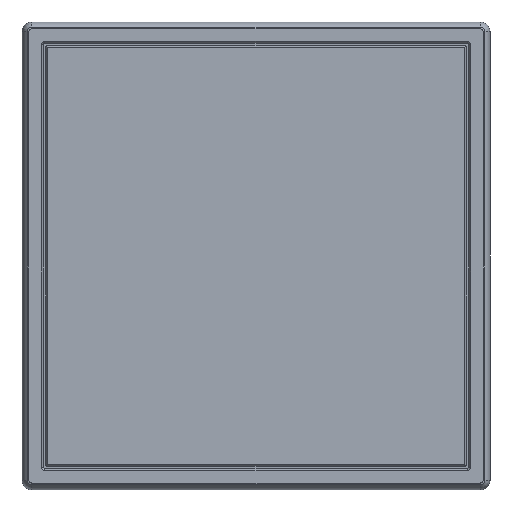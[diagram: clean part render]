
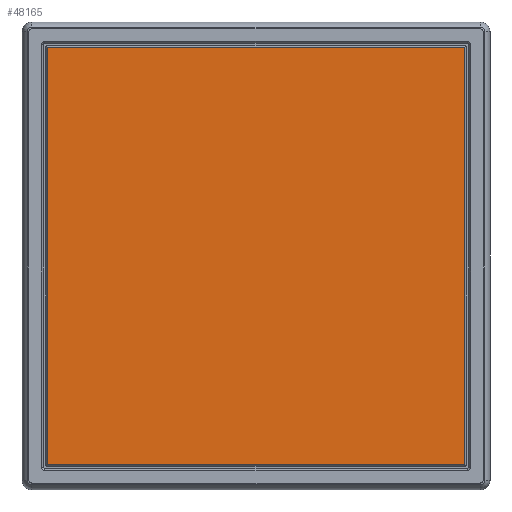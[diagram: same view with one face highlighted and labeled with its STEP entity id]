
A CAD part, top view. The second image highlights one B-rep face of the part: STEP entity #48165.
In plain terms, the highlighted planar face has unit normal (0, 0, 1).
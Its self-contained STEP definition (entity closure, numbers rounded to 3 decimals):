
#4491=PLANE('',#51110);
#5157=FACE_OUTER_BOUND('',#8059,.T.);
#8059=EDGE_LOOP('',(#30596,#30597,#30598,#30599,#30600,#30601,#30602,#30603));
#11045=ELLIPSE('',#51100,0.645,0.5);
#11046=ELLIPSE('',#51103,0.645,0.5);
#11047=ELLIPSE('',#51106,0.645,0.5);
#11048=ELLIPSE('',#51109,0.645,0.5);
#12952=LINE('',#69995,#15968);
#12954=LINE('',#70002,#15970);
#12958=LINE('',#70011,#15974);
#12961=LINE('',#70019,#15977);
#15968=VECTOR('',#56385,173.979);
#15970=VECTOR('',#56393,173.979);
#15974=VECTOR('',#56403,173.979);
#15977=VECTOR('',#56412,173.979);
#19001=VERTEX_POINT('',#69991);
#19002=VERTEX_POINT('',#69993);
#19003=VERTEX_POINT('',#69997);
#19004=VERTEX_POINT('',#70001);
#19005=VERTEX_POINT('',#70005);
#19006=VERTEX_POINT('',#70009);
#19007=VERTEX_POINT('',#70013);
#19008=VERTEX_POINT('',#70017);
#23306=EDGE_CURVE('',#19001,#19002,#12952,.T.);
#23308=EDGE_CURVE('',#19003,#19001,#11045,.T.);
#23309=EDGE_CURVE('',#19004,#19003,#12954,.T.);
#23312=EDGE_CURVE('',#19005,#19004,#11046,.T.);
#23314=EDGE_CURVE('',#19006,#19005,#12958,.T.);
#23316=EDGE_CURVE('',#19007,#19006,#11047,.T.);
#23318=EDGE_CURVE('',#19008,#19007,#12961,.T.);
#23319=EDGE_CURVE('',#19002,#19008,#11048,.T.);
#30596=ORIENTED_EDGE('',*,*,#23308,.T.);
#30597=ORIENTED_EDGE('',*,*,#23306,.T.);
#30598=ORIENTED_EDGE('',*,*,#23319,.T.);
#30599=ORIENTED_EDGE('',*,*,#23318,.T.);
#30600=ORIENTED_EDGE('',*,*,#23316,.T.);
#30601=ORIENTED_EDGE('',*,*,#23314,.T.);
#30602=ORIENTED_EDGE('',*,*,#23312,.T.);
#30603=ORIENTED_EDGE('',*,*,#23309,.T.);
#48165=ADVANCED_FACE('',(#5157),#4491,.T.);
#51100=AXIS2_PLACEMENT_3D('',#69999,#56389,#56390);
#51103=AXIS2_PLACEMENT_3D('',#70007,#56398,#56399);
#51106=AXIS2_PLACEMENT_3D('',#70015,#56407,#56408);
#51109=AXIS2_PLACEMENT_3D('',#70021,#56415,#56416);
#51110=AXIS2_PLACEMENT_3D('',#70022,#56417,#56418);
#56385=DIRECTION('',(0.,-1.,0.));
#56389=DIRECTION('center_axis',(0.,0.,1.));
#56390=DIRECTION('ref_axis',(-0.707,0.707,0.));
#56393=DIRECTION('',(-1.,0.,0.));
#56398=DIRECTION('center_axis',(0.,0.,1.));
#56399=DIRECTION('ref_axis',(0.707,0.707,0.));
#56403=DIRECTION('',(0.,1.,0.));
#56407=DIRECTION('center_axis',(0.,0.,1.));
#56408=DIRECTION('ref_axis',(0.707,-0.707,0.));
#56412=DIRECTION('',(1.,0.,0.));
#56415=DIRECTION('center_axis',(0.,0.,1.));
#56416=DIRECTION('ref_axis',(-0.707,-0.707,0.));
#56417=DIRECTION('center_axis',(0.,0.,1.));
#56418=DIRECTION('ref_axis',(1.,0.,0.));
#69991=CARTESIAN_POINT('',(-87.423,86.99,8.));
#69993=CARTESIAN_POINT('',(-87.423,-86.99,8.));
#69995=CARTESIAN_POINT('',(-87.423,86.99,8.));
#69997=CARTESIAN_POINT('',(-86.99,87.423,8.));
#69999=CARTESIAN_POINT('Origin',(-86.845,86.845,8.));
#70001=CARTESIAN_POINT('',(86.99,87.423,8.));
#70002=CARTESIAN_POINT('',(86.99,87.423,8.));
#70005=CARTESIAN_POINT('',(87.423,86.99,8.));
#70007=CARTESIAN_POINT('Origin',(86.845,86.845,8.));
#70009=CARTESIAN_POINT('',(87.423,-86.99,8.));
#70011=CARTESIAN_POINT('',(87.423,-86.99,8.));
#70013=CARTESIAN_POINT('',(86.99,-87.423,8.));
#70015=CARTESIAN_POINT('Origin',(86.845,-86.845,8.));
#70017=CARTESIAN_POINT('',(-86.99,-87.423,8.));
#70019=CARTESIAN_POINT('',(-86.99,-87.423,8.));
#70021=CARTESIAN_POINT('Origin',(-86.845,-86.845,8.));
#70022=CARTESIAN_POINT('Origin',(0.,0.,8.));
